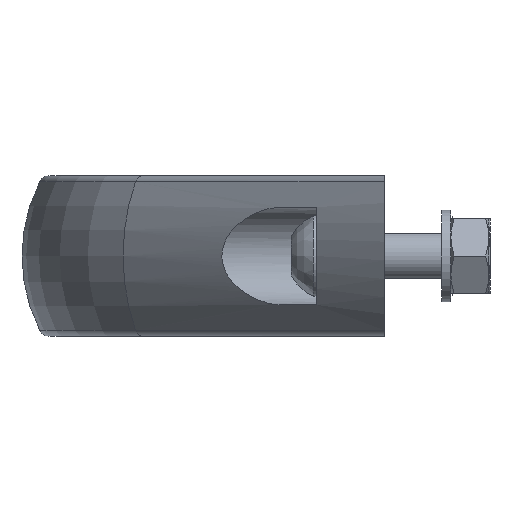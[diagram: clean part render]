
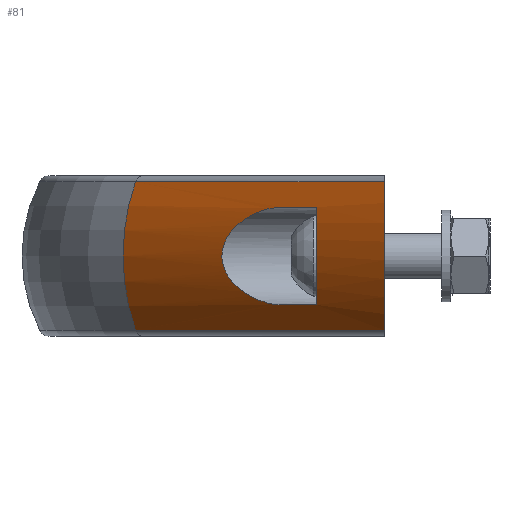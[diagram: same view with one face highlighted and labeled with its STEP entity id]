
A CAD part, left-side view. The second image highlights one B-rep face of the part: STEP entity #81.
In plain terms, the highlighted cylindrical face has radius 28.5 mm (diameter 57 mm), a partial arc.
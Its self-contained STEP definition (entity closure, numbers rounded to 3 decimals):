
#81 = ADVANCED_FACE( '', ( #217, #218 ), #219, .T. );
#217 = FACE_OUTER_BOUND( '', #510, .T. );
#218 = FACE_BOUND( '', #511, .T. );
#219 = CYLINDRICAL_SURFACE( '', #512, 28.5 );
#510 = EDGE_LOOP( '', ( #925, #926, #927, #928 ) );
#511 = EDGE_LOOP( '', ( #929, #930, #931, #932 ) );
#512 = AXIS2_PLACEMENT_3D( '', #933, #934, #935 );
#925 = ORIENTED_EDGE( '', *, *, #1792, .F. );
#926 = ORIENTED_EDGE( '', *, *, #1793, .T. );
#927 = ORIENTED_EDGE( '', *, *, #1794, .F. );
#928 = ORIENTED_EDGE( '', *, *, #1789, .F. );
#929 = ORIENTED_EDGE( '', *, *, #1795, .F. );
#930 = ORIENTED_EDGE( '', *, *, #1796, .F. );
#931 = ORIENTED_EDGE( '', *, *, #1797, .F. );
#932 = ORIENTED_EDGE( '', *, *, #1798, .F. );
#933 = CARTESIAN_POINT( '', ( -101.289, -21.867, 0. ) );
#934 = DIRECTION( '', ( -0.707, -0.707, 0. ) );
#935 = DIRECTION( '', ( -0.707, 0.707, 0. ) );
#1789 = EDGE_CURVE( '', #2083, #2086, #2087, .T. );
#1792 = EDGE_CURVE( '', #2091, #2083, #2092, .T. );
#1793 = EDGE_CURVE( '', #2091, #2093, #2094, .T. );
#1794 = EDGE_CURVE( '', #2086, #2093, #2095, .T. );
#1795 = EDGE_CURVE( '', #2096, #2097, #2098, .F. );
#1796 = EDGE_CURVE( '', #2099, #2096, #2100, .T. );
#1797 = EDGE_CURVE( '', #2101, #2099, #2102, .T. );
#1798 = EDGE_CURVE( '', #2097, #2101, #2103, .T. );
#2083 = VERTEX_POINT( '', #2632 );
#2086 = VERTEX_POINT( '', #2635 );
#2087 = LINE( '', #2636, #2637 );
#2091 = VERTEX_POINT( '', #2642 );
#2092 = ELLIPSE( '', #2643, 40.305, 28.5 );
#2093 = VERTEX_POINT( '', #2644 );
#2094 = LINE( '', #2645, #2646 );
#2095 = CIRCLE( '', #2647, 28.5 );
#2096 = VERTEX_POINT( '', #2648 );
#2097 = VERTEX_POINT( '', #2649 );
#2098 = LINE( '', #2650, #2651 );
#2099 = VERTEX_POINT( '', #2652 );
#2100 = B_SPLINE_CURVE_WITH_KNOTS( '', 3, ( #2653, #2654, #2655, #2656, #2657, #2658, #2659, #2660, #2661, #2662, #2663, #2664, #2665, #2666, #2667, #2668, #2669, #2670, #2671, #2672, #2673, #2674, #2675, #2676, #2677, #2678, #2679, #2680, #2681, #2682, #2683, #2684, #2685, #2686, #2687, #2688, #2689, #2690, #2691, #2692, #2693, #2694, #2695, #2696, #2697, #2698, #2699, #2700, #2701, #2702, #2703, #2704, #2705, #2706 ), .UNSPECIFIED., .F., .F., ( 4, 2, 2, 2, 2, 2, 2, 2, 2, 2, 2, 2, 2, 2, 2, 2, 2, 2, 2, 2, 2, 2, 2, 2, 2, 2, 4 ), ( 0.011, 0.013, 0.015, 0.017, 0.018, 0.02, 0.021, 0.022, 0.024, 0.025, 0.026, 0.027, 0.028, 0.028, 0.029, 0.031, 0.032, 0.033, 0.034, 0.035, 0.037, 0.038, 0.039, 0.041, 0.044, 0.045, 0.046 ), .UNSPECIFIED. );
#2101 = VERTEX_POINT( '', #2707 );
#2102 = LINE( '', #2708, #2709 );
#2103 = ELLIPSE( '', #2710, 40.305, 28.5 );
#2632 = CARTESIAN_POINT( '', ( -115.359, 0., -12.906 ) );
#2635 = CARTESIAN_POINT( '', ( -72.117, 43.242, -12.906 ) );
#2636 = CARTESIAN_POINT( '', ( -119.257, -3.899, -12.906 ) );
#2637 = VECTOR( '', #3357, 1000. );
#2642 = CARTESIAN_POINT( '', ( -115.359, 0., 12.906 ) );
#2643 = AXIS2_PLACEMENT_3D( '', #3362, #3363, #3364 );
#2644 = CARTESIAN_POINT( '', ( -72.117, 43.242, 12.906 ) );
#2645 = CARTESIAN_POINT( '', ( -119.257, -3.899, 12.906 ) );
#2646 = VECTOR( '', #3365, 1000. );
#2647 = AXIS2_PLACEMENT_3D( '', #3366, #3367, #3368 );
#2648 = CARTESIAN_POINT( '', ( -100., 17.893, -8.5 ) );
#2649 = CARTESIAN_POINT( '', ( -106.093, 11.8, -8.5 ) );
#2650 = CARTESIAN_POINT( '', ( -120.525, -2.631, -8.5 ) );
#2651 = VECTOR( '', #3369, 1000. );
#2652 = CARTESIAN_POINT( '', ( -100., 17.893, 8.5 ) );
#2653 = CARTESIAN_POINT( '', ( -100., 17.893, 8.5 ) );
#2654 = CARTESIAN_POINT( '', ( -99.492, 18.402, 8.5 ) );
#2655 = CARTESIAN_POINT( '', ( -98.997, 18.917, 8.455 ) );
#2656 = CARTESIAN_POINT( '', ( -98.03, 19.958, 8.283 ) );
#2657 = CARTESIAN_POINT( '', ( -97.559, 20.484, 8.157 ) );
#2658 = CARTESIAN_POINT( '', ( -96.866, 21.28, 7.905 ) );
#2659 = CARTESIAN_POINT( '', ( -96.639, 21.546, 7.811 ) );
#2660 = CARTESIAN_POINT( '', ( -96.194, 22.073, 7.604 ) );
#2661 = CARTESIAN_POINT( '', ( -95.977, 22.334, 7.491 ) );
#2662 = CARTESIAN_POINT( '', ( -95.336, 23.114, 7.123 ) );
#2663 = CARTESIAN_POINT( '', ( -94.927, 23.626, 6.84 ) );
#2664 = CARTESIAN_POINT( '', ( -94.34, 24.377, 6.346 ) );
#2665 = CARTESIAN_POINT( '', ( -94.148, 24.624, 6.171 ) );
#2666 = CARTESIAN_POINT( '', ( -93.775, 25.113, 5.794 ) );
#2667 = CARTESIAN_POINT( '', ( -93.592, 25.354, 5.591 ) );
#2668 = CARTESIAN_POINT( '', ( -93.066, 26.055, 4.947 ) );
#2669 = CARTESIAN_POINT( '', ( -92.744, 26.492, 4.47 ) );
#2670 = CARTESIAN_POINT( '', ( -92.319, 27.078, 3.653 ) );
#2671 = CARTESIAN_POINT( '', ( -92.189, 27.259, 3.367 ) );
#2672 = CARTESIAN_POINT( '', ( -91.956, 27.584, 2.766 ) );
#2673 = CARTESIAN_POINT( '', ( -91.854, 27.727, 2.451 ) );
#2674 = CARTESIAN_POINT( '', ( -91.683, 27.969, 1.786 ) );
#2675 = CARTESIAN_POINT( '', ( -91.615, 28.064, 1.44 ) );
#2676 = CARTESIAN_POINT( '', ( -91.547, 28.161, 0.911 ) );
#2677 = CARTESIAN_POINT( '', ( -91.53, 28.186, 0.733 ) );
#2678 = CARTESIAN_POINT( '', ( -91.506, 28.219, 0.372 ) );
#2679 = CARTESIAN_POINT( '', ( -91.5, 28.228, 0.188 ) );
#2680 = CARTESIAN_POINT( '', ( -91.5, 28.228, -0.357 ) );
#2681 = CARTESIAN_POINT( '', ( -91.523, 28.196, -0.715 ) );
#2682 = CARTESIAN_POINT( '', ( -91.612, 28.068, -1.423 ) );
#2683 = CARTESIAN_POINT( '', ( -91.68, 27.973, -1.772 ) );
#2684 = CARTESIAN_POINT( '', ( -91.849, 27.734, -2.435 ) );
#2685 = CARTESIAN_POINT( '', ( -91.952, 27.59, -2.754 ) );
#2686 = CARTESIAN_POINT( '', ( -92.186, 27.263, -3.361 ) );
#2687 = CARTESIAN_POINT( '', ( -92.316, 27.083, -3.646 ) );
#2688 = CARTESIAN_POINT( '', ( -92.596, 26.697, -4.186 ) );
#2689 = CARTESIAN_POINT( '', ( -92.746, 26.491, -4.441 ) );
#2690 = CARTESIAN_POINT( '', ( -93.066, 26.057, -4.924 ) );
#2691 = CARTESIAN_POINT( '', ( -93.235, 25.829, -5.154 ) );
#2692 = CARTESIAN_POINT( '', ( -93.759, 25.131, -5.797 ) );
#2693 = CARTESIAN_POINT( '', ( -94.131, 24.644, -6.17 ) );
#2694 = CARTESIAN_POINT( '', ( -94.72, 23.891, -6.666 ) );
#2695 = CARTESIAN_POINT( '', ( -94.921, 23.636, -6.82 ) );
#2696 = CARTESIAN_POINT( '', ( -95.334, 23.12, -7.109 ) );
#2697 = CARTESIAN_POINT( '', ( -95.547, 22.858, -7.244 ) );
#2698 = CARTESIAN_POINT( '', ( -96.193, 22.071, -7.616 ) );
#2699 = CARTESIAN_POINT( '', ( -96.636, 21.546, -7.821 ) );
#2700 = CARTESIAN_POINT( '', ( -97.548, 20.496, -8.153 ) );
#2701 = CARTESIAN_POINT( '', ( -98.018, 19.972, -8.28 ) );
#2702 = CARTESIAN_POINT( '', ( -98.744, 19.188, -8.41 ) );
#2703 = CARTESIAN_POINT( '', ( -98.991, 18.928, -8.444 ) );
#2704 = CARTESIAN_POINT( '', ( -99.491, 18.408, -8.488 ) );
#2705 = CARTESIAN_POINT( '', ( -99.745, 18.148, -8.5 ) );
#2706 = CARTESIAN_POINT( '', ( -100., 17.893, -8.5 ) );
#2707 = CARTESIAN_POINT( '', ( -106.093, 11.8, 8.5 ) );
#2708 = CARTESIAN_POINT( '', ( -120.525, -2.631, 8.5 ) );
#2709 = VECTOR( '', #3370, 1000. );
#2710 = AXIS2_PLACEMENT_3D( '', #3371, #3372, #3373 );
#3357 = DIRECTION( '', ( 0.707, 0.707, 0. ) );
#3362 = CARTESIAN_POINT( '', ( -79.423, 0., 0. ) );
#3363 = DIRECTION( '', ( 0., -1., 0. ) );
#3364 = DIRECTION( '', ( 1., 0., 0. ) );
#3365 = DIRECTION( '', ( 0.707, 0.707, 0. ) );
#3366 = CARTESIAN_POINT( '', ( -54.149, 25.274, 0. ) );
#3367 = DIRECTION( '', ( 0.707, 0.707, 0. ) );
#3368 = DIRECTION( '', ( 0., 0., -1. ) );
#3369 = DIRECTION( '', ( 0.707, 0.707, 0. ) );
#3370 = DIRECTION( '', ( 0.707, 0.707, 0. ) );
#3371 = CARTESIAN_POINT( '', ( -67.623, 11.8, 0. ) );
#3372 = DIRECTION( '', ( 0., 1., 0. ) );
#3373 = DIRECTION( '', ( 1., 0., 0. ) );
